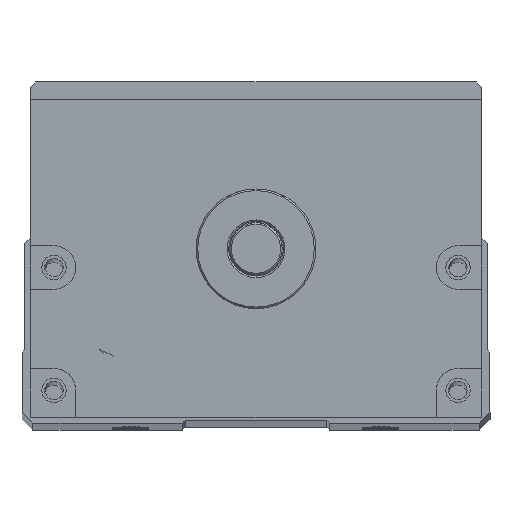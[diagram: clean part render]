
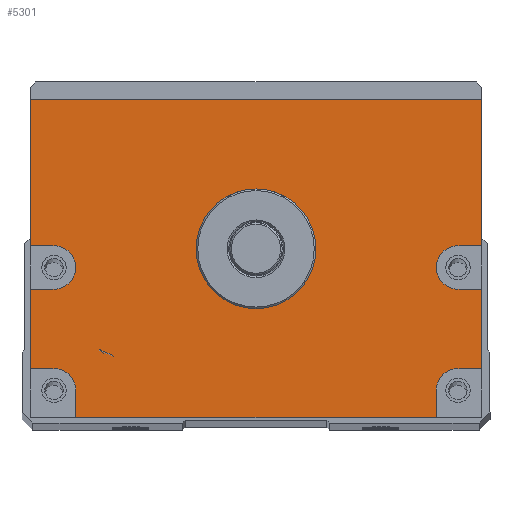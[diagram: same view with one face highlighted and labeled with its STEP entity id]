
A CAD part, top view. The second image highlights one B-rep face of the part: STEP entity #5301.
In plain terms, the highlighted planar face has unit normal (0, 0, 1).
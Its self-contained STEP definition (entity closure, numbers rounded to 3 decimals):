
#618=LINE('',#26687,#1296);
#620=LINE('',#26695,#1298);
#621=LINE('',#26698,#1299);
#622=LINE('',#26700,#1300);
#623=LINE('',#26704,#1301);
#624=LINE('',#26706,#1302);
#625=LINE('',#26707,#1303);
#626=LINE('',#26709,#1304);
#627=LINE('',#26713,#1305);
#628=LINE('',#26715,#1306);
#629=LINE('',#26717,#1307);
#630=LINE('',#26721,#1308);
#631=LINE('',#26723,#1309);
#632=LINE('',#26725,#1310);
#1296=VECTOR('',#15173,1.);
#1298=VECTOR('',#15181,1.);
#1299=VECTOR('',#15182,1.);
#1300=VECTOR('',#15183,1.);
#1301=VECTOR('',#15186,1.);
#1302=VECTOR('',#15187,1.);
#1303=VECTOR('',#15188,1.);
#1304=VECTOR('',#15189,1.);
#1305=VECTOR('',#15192,1.);
#1306=VECTOR('',#15193,1.);
#1307=VECTOR('',#15194,1.);
#1308=VECTOR('',#15197,1.);
#1309=VECTOR('',#15198,1.);
#1310=VECTOR('',#15199,1.);
#5301=ADVANCED_FACE('',(#6215,#6216),#5808,.T.);
#5808=PLANE('',#13618);
#6215=FACE_BOUND('',#6843,.T.);
#6216=FACE_BOUND('',#6844,.T.);
#6843=EDGE_LOOP('',(#8377,#8378,#8379,#8380,#8381,#8382,#8383,#8384,#8385,
#8386,#8387,#8388,#8389,#8390,#8391,#8392,#8393,#8394));
#6844=EDGE_LOOP('',(#8395));
#8377=ORIENTED_EDGE('',*,*,#11859,.F.);
#8378=ORIENTED_EDGE('',*,*,#11860,.T.);
#8379=ORIENTED_EDGE('',*,*,#11861,.F.);
#8380=ORIENTED_EDGE('',*,*,#11862,.F.);
#8381=ORIENTED_EDGE('',*,*,#11863,.F.);
#8382=ORIENTED_EDGE('',*,*,#11864,.T.);
#8383=ORIENTED_EDGE('',*,*,#11855,.T.);
#8384=ORIENTED_EDGE('',*,*,#11865,.T.);
#8385=ORIENTED_EDGE('',*,*,#11866,.F.);
#8386=ORIENTED_EDGE('',*,*,#11867,.F.);
#8387=ORIENTED_EDGE('',*,*,#11868,.F.);
#8388=ORIENTED_EDGE('',*,*,#11869,.T.);
#8389=ORIENTED_EDGE('',*,*,#11870,.F.);
#8390=ORIENTED_EDGE('',*,*,#11871,.F.);
#8391=ORIENTED_EDGE('',*,*,#11872,.F.);
#8392=ORIENTED_EDGE('',*,*,#11873,.T.);
#8393=ORIENTED_EDGE('',*,*,#11874,.F.);
#8394=ORIENTED_EDGE('',*,*,#11875,.F.);
#8395=ORIENTED_EDGE('',*,*,#11841,.T.);
#10672=VERTEX_POINT('',#26658);
#10685=VERTEX_POINT('',#26686);
#10686=VERTEX_POINT('',#26688);
#10689=VERTEX_POINT('',#26696);
#10690=VERTEX_POINT('',#26697);
#10691=VERTEX_POINT('',#26699);
#10692=VERTEX_POINT('',#26701);
#10693=VERTEX_POINT('',#26703);
#10694=VERTEX_POINT('',#26705);
#10695=VERTEX_POINT('',#26708);
#10696=VERTEX_POINT('',#26710);
#10697=VERTEX_POINT('',#26712);
#10698=VERTEX_POINT('',#26714);
#10699=VERTEX_POINT('',#26716);
#10700=VERTEX_POINT('',#26718);
#10701=VERTEX_POINT('',#26720);
#10702=VERTEX_POINT('',#26722);
#10703=VERTEX_POINT('',#26724);
#10704=VERTEX_POINT('',#26726);
#11841=EDGE_CURVE('',#10672,#10672,#12979,.T.);
#11855=EDGE_CURVE('',#10686,#10685,#618,.T.);
#11859=EDGE_CURVE('',#10689,#10690,#620,.T.);
#11860=EDGE_CURVE('',#10689,#10691,#621,.T.);
#11861=EDGE_CURVE('',#10692,#10691,#622,.T.);
#11862=EDGE_CURVE('',#10693,#10692,#12990,.T.);
#11863=EDGE_CURVE('',#10694,#10693,#623,.T.);
#11864=EDGE_CURVE('',#10694,#10686,#624,.T.);
#11865=EDGE_CURVE('',#10685,#10695,#625,.T.);
#11866=EDGE_CURVE('',#10696,#10695,#626,.T.);
#11867=EDGE_CURVE('',#10697,#10696,#12991,.T.);
#11868=EDGE_CURVE('',#10698,#10697,#627,.T.);
#11869=EDGE_CURVE('',#10698,#10699,#628,.T.);
#11870=EDGE_CURVE('',#10700,#10699,#629,.T.);
#11871=EDGE_CURVE('',#10701,#10700,#12992,.T.);
#11872=EDGE_CURVE('',#10702,#10701,#630,.T.);
#11873=EDGE_CURVE('',#10702,#10703,#631,.T.);
#11874=EDGE_CURVE('',#10704,#10703,#632,.T.);
#11875=EDGE_CURVE('',#10690,#10704,#12993,.T.);
#12979=CIRCLE('',#13600,11.);
#12990=CIRCLE('',#13614,4.);
#12991=CIRCLE('',#13615,4.);
#12992=CIRCLE('',#13616,4.);
#12993=CIRCLE('',#13617,4.);
#13600=AXIS2_PLACEMENT_3D('',#26657,#15146,#15147);
#13614=AXIS2_PLACEMENT_3D('',#26702,#15184,#15185);
#13615=AXIS2_PLACEMENT_3D('',#26711,#15190,#15191);
#13616=AXIS2_PLACEMENT_3D('',#26719,#15195,#15196);
#13617=AXIS2_PLACEMENT_3D('',#26727,#15200,#15201);
#13618=AXIS2_PLACEMENT_3D('',#26728,#15202,#15203);
#15146=DIRECTION('',(0.,0.,-1.));
#15147=DIRECTION('',(1.,0.,0.));
#15173=DIRECTION('',(-1.,0.,0.));
#15181=DIRECTION('',(-1.,0.,0.));
#15182=DIRECTION('',(0.,1.,0.));
#15183=DIRECTION('',(1.,0.,0.));
#15184=DIRECTION('',(0.,0.,1.));
#15185=DIRECTION('',(1.,0.,0.));
#15186=DIRECTION('',(-1.,0.,0.));
#15187=DIRECTION('',(0.,1.,0.));
#15188=DIRECTION('',(0.,-1.,0.));
#15189=DIRECTION('',(-1.,0.,0.));
#15190=DIRECTION('',(0.,0.,1.));
#15191=DIRECTION('',(1.,0.,0.));
#15192=DIRECTION('',(1.,0.,0.));
#15193=DIRECTION('',(0.,-1.,0.));
#15194=DIRECTION('',(-1.,0.,0.));
#15195=DIRECTION('',(0.,0.,1.));
#15196=DIRECTION('',(1.,0.,0.));
#15197=DIRECTION('',(0.,1.,0.));
#15198=DIRECTION('',(1.,0.,0.));
#15199=DIRECTION('',(0.,-1.,0.));
#15200=DIRECTION('',(0.,0.,1.));
#15201=DIRECTION('',(1.,0.,0.));
#15202=DIRECTION('',(0.,0.,1.));
#15203=DIRECTION('',(1.,0.,0.));
#26657=CARTESIAN_POINT('',(150.,0.,582.5));
#26658=CARTESIAN_POINT('',(161.,0.,582.5));
#26686=CARTESIAN_POINT('',(108.5,27.5,582.5));
#26687=CARTESIAN_POINT('',(191.5,27.5,582.5));
#26688=CARTESIAN_POINT('',(191.5,27.5,582.5));
#26695=CARTESIAN_POINT('',(191.5,-22.,582.5));
#26696=CARTESIAN_POINT('',(191.5,-22.,582.5));
#26697=CARTESIAN_POINT('',(187.115,-22.,582.5));
#26698=CARTESIAN_POINT('',(191.5,-31.,582.5));
#26699=CARTESIAN_POINT('',(191.5,-7.431,582.5));
#26700=CARTESIAN_POINT('',(191.5,-7.431,582.5));
#26701=CARTESIAN_POINT('',(187.115,-7.431,582.5));
#26702=CARTESIAN_POINT('',(187.115,-3.431,582.5));
#26703=CARTESIAN_POINT('',(187.115,0.569,582.5));
#26704=CARTESIAN_POINT('',(191.5,0.569,582.5));
#26705=CARTESIAN_POINT('',(191.5,0.569,582.5));
#26706=CARTESIAN_POINT('',(191.5,-31.,582.5));
#26707=CARTESIAN_POINT('',(108.5,27.5,582.5));
#26708=CARTESIAN_POINT('',(108.5,0.569,582.5));
#26709=CARTESIAN_POINT('',(191.5,0.569,582.5));
#26710=CARTESIAN_POINT('',(112.885,0.569,582.5));
#26711=CARTESIAN_POINT('',(112.885,-3.431,582.5));
#26712=CARTESIAN_POINT('',(112.885,-7.431,582.5));
#26713=CARTESIAN_POINT('',(191.5,-7.431,582.5));
#26714=CARTESIAN_POINT('',(108.5,-7.431,582.5));
#26715=CARTESIAN_POINT('',(108.5,27.5,582.5));
#26716=CARTESIAN_POINT('',(108.5,-22.,582.5));
#26717=CARTESIAN_POINT('',(191.5,-22.,582.5));
#26718=CARTESIAN_POINT('',(112.885,-22.,582.5));
#26719=CARTESIAN_POINT('',(112.885,-26.,582.5));
#26720=CARTESIAN_POINT('',(116.885,-26.,582.5));
#26721=CARTESIAN_POINT('',(116.885,-31.,582.5));
#26722=CARTESIAN_POINT('',(116.885,-31.,582.5));
#26723=CARTESIAN_POINT('',(108.5,-31.,582.5));
#26724=CARTESIAN_POINT('',(183.115,-31.,582.5));
#26725=CARTESIAN_POINT('',(183.115,-31.,582.5));
#26726=CARTESIAN_POINT('',(183.115,-26.,582.5));
#26727=CARTESIAN_POINT('',(187.115,-26.,582.5));
#26728=CARTESIAN_POINT('',(191.5,-31.,582.5));
